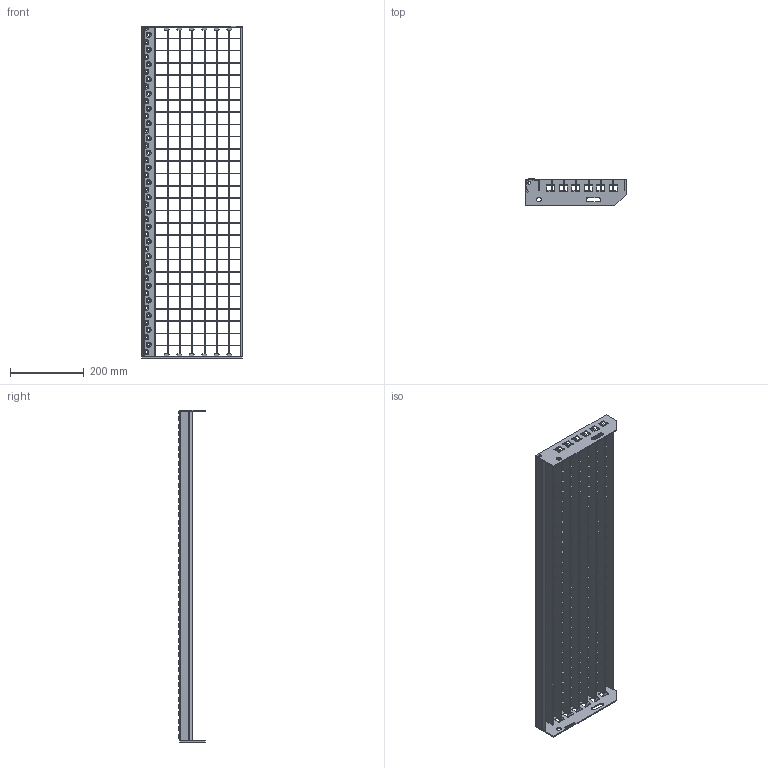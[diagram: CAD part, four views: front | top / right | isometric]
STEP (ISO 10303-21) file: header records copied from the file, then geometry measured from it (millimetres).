
FILE_DESCRIPTION(/* description */ ('','CAx-IF Rec.Pracs.---Representation and Presentation of Product Manufacturing Information (PMI)---3.8---2014-02-18'),/* implementation_level */ '2;1');
FILE_NAME(/* name */ 'C:\Users\phaverkotte\Desktop\Lager STEP\P-Stufen\PX3 330-33-3\PX3 330-33-3 900mm x 270mm.stp',/* time_stamp */ '2018-03-24T10:13:48+01:00',/* author */ ('phaverkotte'),/* organization */ (''),/* preprocessor_version */ 'ST-DEVELOPER v16.13',/* originating_system */ 'Autodesk Inventor 2018',/* authorisation */ '');
FILE_SCHEMA (('AP242_MANAGED_MODEL_BASED_3D_ENGINEERING_MIM_LF { 1 0 10303 442 1 1 4 }'));
Length unit declared in the file: millimetre
Products named in the file (8): Schodišťový stupeň přím
ý lisovaný; Seitenplatte ausgeklinkt links; Seitenplatte 240 ausgeklinkt extern rechts; Schod nášlap; P Rošt schodu; Querstab; P Nosný pás; Hinteres Flach
Assembly tree (38 placements, depth 3):
  Schodišťový stupeň přím
ý lisovaný
    Seitenplatte ausgeklinkt links
    Seitenplatte 240 ausgeklinkt extern rechts
    Schod nášlap
    P Rošt schodu
      Querstab  x26
      P Nosný pás  x7
      Hinteres Flach
Bounding box: 271.31 x 72.75 x 900 mm (x, y, z)
Volume: 929363.4 mm3; surface area: 787998.1 mm2
Topology: 37 solids, 37 shells, 3322 faces, 9578 edges, 6347 vertices
Faces by surface type: plane 2114, cylinder 1004, cone 135, torus 45, bspline 24
Full cylindrical faces by diameter (mm): 8 x2, 13 x2
Entity records: 32419 total; most frequent: CARTESIAN_POINT 9041, DIRECTION 4726, ORIENTED_EDGE 4542, EDGE_CURVE 2271, LINE 1580, VECTOR 1580, AXIS2_PLACEMENT_3D 1573, VERTEX_POINT 1566
